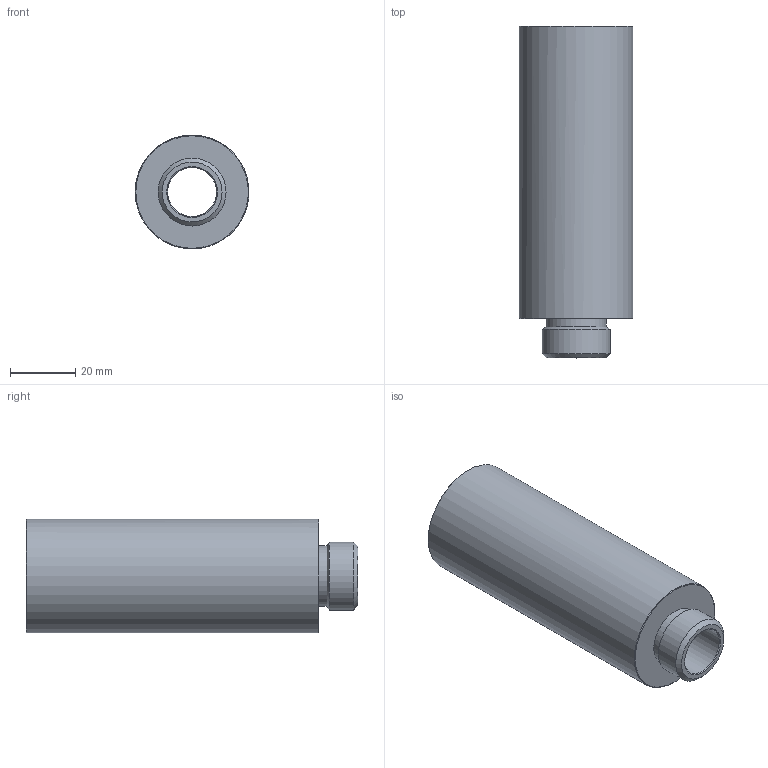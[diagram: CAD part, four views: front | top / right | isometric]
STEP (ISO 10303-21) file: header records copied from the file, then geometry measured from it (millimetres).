
FILE_DESCRIPTION(/* description */ ('SILEZIATORE G1/2"'),/* implementation_level */ '2;1');
FILE_NAME(/* name */ 'C:\PNX_VAULTFOLDER\Area Tecnica\Disegni\VARIE-3D\Componenti\1900 (vuoto)\19S12_S.stp',/* time_stamp */ '2019-09-13T14:46:55+02:00',/* author */ ('maniean1'),/* organization */ ('Pneumax S.p.A.'),/* preprocessor_version */ 'ST-DEVELOPER v17',/* originating_system */ 'Autodesk Inventor 2019',/* authorisation */ '');
FILE_SCHEMA (('AUTOMOTIVE_DESIGN { 1 0 10303 214 3 1 1 }'));
Length unit declared in the file: millimetre
Products named in the file (1): 19S12.S
Bounding box: 34.94 x 102 x 34.98 mm (x, y, z)
Volume: 70340.7 mm3; surface area: 17326 mm2
Topology: 1 solids, 1 shells, 17 faces, 39 edges, 27 vertices
Faces by surface type: cone 7, plane 5, cylinder 5
Full cylindrical faces by diameter (mm): 15 x1, 16 x1, 18.5 x1, 20.9 x1, 35 x1
Entity records: 570 total; most frequent: DIRECTION 102, CARTESIAN_POINT 84, ORIENTED_EDGE 78, AXIS2_PLACEMENT_3D 45, EDGE_CURVE 39, CIRCLE 27, VERTEX_POINT 27, EDGE_LOOP 22
